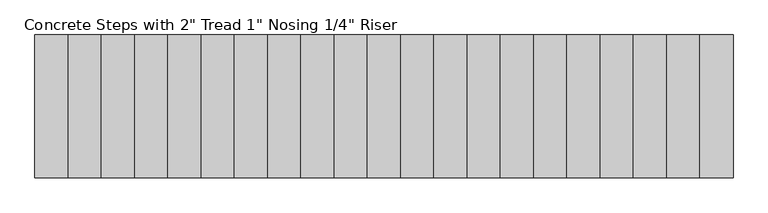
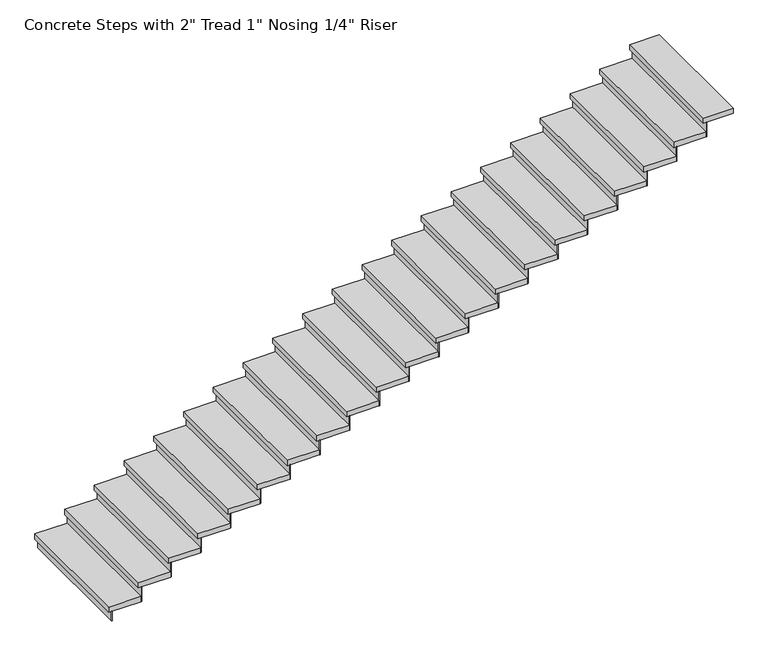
"""IFC4 building model written with IfcOpenShell, lengths in millimetres: stair flight geometry."""

from ifc_helpers import new_model, si_unit, frame, origin, origin_with_axes, place, context, project, spatial, polyline, outline, extrude, source, transform, mapped, element, save


def stair_flight_b4acfca7(model_context):
    return source(origin(), model_context, "Body", "SweptSolid", [
        extrude(outline(polyline([(-38912.5313244, -3862.1362112), (-38918.8813244, -3862.1362112), (-38918.8813244, -2662.1362112), (-38912.5313244, -2662.1362112), (-38912.5313244, -3862.1362112)])), origin_with_axes(), (0.0, 0.0, 1.0), 94.3428571),
        extrude(outline(polyline([(-38639.4813244, -2662.1362112), (-38639.4813244, -3862.1362112), (-38944.2813244, -3862.1362112), (-38944.2813244, -2662.1362112), (-38639.4813244, -2662.1362112)])), frame((0.0, 0.0, 94.3428571), z_axis=(0.0, 0.0, 1.0), x_axis=(1.0, 0.0, 0.0)), (0.0, 0.0, 1.0), 50.8),
        extrude(outline(polyline([(-38633.1313244, -3862.1362112), (-38639.4813244, -3862.1362112), (-38639.4813244, -2662.1362112), (-38633.1313244, -2662.1362112), (-38633.1313244, -3862.1362112)])), frame((0.0, 0.0, 94.3428571), z_axis=(0.0, 0.0, 1.0), x_axis=(1.0, 0.0, 0.0)), (0.0, 0.0, 1.0), 145.1428571),
        extrude(outline(polyline([(-38360.0813244, -2662.1362112), (-38360.0813244, -3862.1362112), (-38664.8813244, -3862.1362112), (-38664.8813244, -2662.1362112), (-38360.0813244, -2662.1362112)])), frame((0.0, 0.0, 239.4857143), z_axis=(0.0, 0.0, 1.0), x_axis=(1.0, 0.0, 0.0)), (0.0, 0.0, 1.0), 50.8),
        extrude(outline(polyline([(-38353.7313244, -3862.1362112), (-38360.0813244, -3862.1362112), (-38360.0813244, -2662.1362112), (-38353.7313244, -2662.1362112), (-38353.7313244, -3862.1362112)])), frame((0.0, 0.0, 239.4857143), z_axis=(0.0, 0.0, 1.0), x_axis=(1.0, 0.0, 0.0)), (0.0, 0.0, 1.0), 145.1428571),
        extrude(outline(polyline([(-38080.6813244, -2662.1362112), (-38080.6813244, -3862.1362112), (-38385.4813244, -3862.1362112), (-38385.4813244, -2662.1362112), (-38080.6813244, -2662.1362112)])), frame((0.0, 0.0, 384.6285714), z_axis=(0.0, 0.0, 1.0), x_axis=(1.0, 0.0, 0.0)), (0.0, 0.0, 1.0), 50.8),
        extrude(outline(polyline([(-38074.3313244, -3862.1362112), (-38080.6813244, -3862.1362112), (-38080.6813244, -2662.1362112), (-38074.3313244, -2662.1362112), (-38074.3313244, -3862.1362112)])), frame((0.0, 0.0, 384.6285714), z_axis=(0.0, 0.0, 1.0), x_axis=(1.0, 0.0, 0.0)), (0.0, 0.0, 1.0), 145.1428571),
        extrude(outline(polyline([(-37801.2813244, -2662.1362112), (-37801.2813244, -3862.1362112), (-38106.0813244, -3862.1362112), (-38106.0813244, -2662.1362112), (-37801.2813244, -2662.1362112)])), frame((0.0, 0.0, 529.7714286), z_axis=(0.0, 0.0, 1.0), x_axis=(1.0, 0.0, 0.0)), (0.0, 0.0, 1.0), 50.8),
        extrude(outline(polyline([(-37794.9313244, -3862.1362112), (-37801.2813244, -3862.1362112), (-37801.2813244, -2662.1362112), (-37794.9313244, -2662.1362112), (-37794.9313244, -3862.1362112)])), frame((0.0, 0.0, 529.7714286), z_axis=(0.0, 0.0, 1.0), x_axis=(1.0, 0.0, 0.0)), (0.0, 0.0, 1.0), 145.1428571),
        extrude(outline(polyline([(-37521.8813244, -2662.1362112), (-37521.8813244, -3862.1362112), (-37826.6813244, -3862.1362112), (-37826.6813244, -2662.1362112), (-37521.8813244, -2662.1362112)])), frame((0.0, 0.0, 674.9142857), z_axis=(0.0, 0.0, 1.0), x_axis=(1.0, 0.0, 0.0)), (0.0, 0.0, 1.0), 50.8),
        extrude(outline(polyline([(-37515.5313244, -3862.1362112), (-37521.8813244, -3862.1362112), (-37521.8813244, -2662.1362112), (-37515.5313244, -2662.1362112), (-37515.5313244, -3862.1362112)])), frame((0.0, 0.0, 674.9142857), z_axis=(0.0, 0.0, 1.0), x_axis=(1.0, 0.0, 0.0)), (0.0, 0.0, 1.0), 145.1428571),
        extrude(outline(polyline([(-37242.4813244, -2662.1362112), (-37242.4813244, -3862.1362112), (-37547.2813244, -3862.1362112), (-37547.2813244, -2662.1362112), (-37242.4813244, -2662.1362112)])), frame((0.0, 0.0, 820.0571429), z_axis=(0.0, 0.0, 1.0), x_axis=(1.0, 0.0, 0.0)), (0.0, 0.0, 1.0), 50.8),
        extrude(outline(polyline([(-37236.1313244, -3862.1362112), (-37242.4813244, -3862.1362112), (-37242.4813244, -2662.1362112), (-37236.1313244, -2662.1362112), (-37236.1313244, -3862.1362112)])), frame((0.0, 0.0, 820.0571429), z_axis=(0.0, 0.0, 1.0), x_axis=(1.0, 0.0, 0.0)), (0.0, 0.0, 1.0), 145.1428571),
        extrude(outline(polyline([(-36963.0813244, -2662.1362112), (-36963.0813244, -3862.1362112), (-37267.8813244, -3862.1362112), (-37267.8813244, -2662.1362112), (-36963.0813244, -2662.1362112)])), frame((0.0, 0.0, 965.2), z_axis=(0.0, 0.0, 1.0), x_axis=(1.0, 0.0, 0.0)), (0.0, 0.0, 1.0), 50.8),
        extrude(outline(polyline([(-36956.7313244, -3862.1362112), (-36963.0813244, -3862.1362112), (-36963.0813244, -2662.1362112), (-36956.7313244, -2662.1362112), (-36956.7313244, -3862.1362112)])), frame((0.0, 0.0, 965.2), z_axis=(0.0, 0.0, 1.0), x_axis=(1.0, 0.0, 0.0)), (0.0, 0.0, 1.0), 145.1428571),
        extrude(outline(polyline([(-36683.6813244, -2662.1362112), (-36683.6813244, -3862.1362112), (-36988.4813244, -3862.1362112), (-36988.4813244, -2662.1362112), (-36683.6813244, -2662.1362112)])), frame((0.0, 0.0, 1110.3428571), z_axis=(0.0, 0.0, 1.0), x_axis=(1.0, 0.0, 0.0)), (0.0, 0.0, 1.0), 50.8),
        extrude(outline(polyline([(-36677.3313244, -3862.1362112), (-36683.6813244, -3862.1362112), (-36683.6813244, -2662.1362112), (-36677.3313244, -2662.1362112), (-36677.3313244, -3862.1362112)])), frame((0.0, 0.0, 1110.3428571), z_axis=(0.0, 0.0, 1.0), x_axis=(1.0, 0.0, 0.0)), (0.0, 0.0, 1.0), 145.1428571),
        extrude(outline(polyline([(-36404.2813244, -2662.1362112), (-36404.2813244, -3862.1362112), (-36709.0813244, -3862.1362112), (-36709.0813244, -2662.1362112), (-36404.2813244, -2662.1362112)])), frame((0.0, 0.0, 1255.4857143), z_axis=(0.0, 0.0, 1.0), x_axis=(1.0, 0.0, 0.0)), (0.0, 0.0, 1.0), 50.8),
        extrude(outline(polyline([(-36397.9313244, -3862.1362112), (-36404.2813244, -3862.1362112), (-36404.2813244, -2662.1362112), (-36397.9313244, -2662.1362112), (-36397.9313244, -3862.1362112)])), frame((0.0, 0.0, 1255.4857143), z_axis=(0.0, 0.0, 1.0), x_axis=(1.0, 0.0, 0.0)), (0.0, 0.0, 1.0), 145.1428571),
        extrude(outline(polyline([(-36124.8813244, -2662.1362112), (-36124.8813244, -3862.1362112), (-36429.6813244, -3862.1362112), (-36429.6813244, -2662.1362112), (-36124.8813244, -2662.1362112)])), frame((0.0, 0.0, 1400.6285714), z_axis=(0.0, 0.0, 1.0), x_axis=(1.0, 0.0, 0.0)), (0.0, 0.0, 1.0), 50.8),
        extrude(outline(polyline([(-36118.5313244, -3862.1362112), (-36124.8813244, -3862.1362112), (-36124.8813244, -2662.1362112), (-36118.5313244, -2662.1362112), (-36118.5313244, -3862.1362112)])), frame((0.0, 0.0, 1400.6285714), z_axis=(0.0, 0.0, 1.0), x_axis=(1.0, 0.0, 0.0)), (0.0, 0.0, 1.0), 145.1428571),
        extrude(outline(polyline([(-35845.4813244, -2662.1362112), (-35845.4813244, -3862.1362112), (-36150.2813244, -3862.1362112), (-36150.2813244, -2662.1362112), (-35845.4813244, -2662.1362112)])), frame((0.0, 0.0, 1545.7714286), z_axis=(0.0, 0.0, 1.0), x_axis=(1.0, 0.0, 0.0)), (0.0, 0.0, 1.0), 50.8),
        extrude(outline(polyline([(-35839.1313244, -3862.1362112), (-35845.4813244, -3862.1362112), (-35845.4813244, -2662.1362112), (-35839.1313244, -2662.1362112), (-35839.1313244, -3862.1362112)])), frame((0.0, 0.0, 1545.7714286), z_axis=(0.0, 0.0, 1.0), x_axis=(1.0, 0.0, 0.0)), (0.0, 0.0, 1.0), 145.1428571),
        extrude(outline(polyline([(-35566.0813244, -2662.1362112), (-35566.0813244, -3862.1362112), (-35870.8813244, -3862.1362112), (-35870.8813244, -2662.1362112), (-35566.0813244, -2662.1362112)])), frame((0.0, 0.0, 1690.9142857), z_axis=(0.0, 0.0, 1.0), x_axis=(1.0, 0.0, 0.0)), (0.0, 0.0, 1.0), 50.8),
        extrude(outline(polyline([(-35559.7313244, -3862.1362112), (-35566.0813244, -3862.1362112), (-35566.0813244, -2662.1362112), (-35559.7313244, -2662.1362112), (-35559.7313244, -3862.1362112)])), frame((0.0, 0.0, 1690.9142857), z_axis=(0.0, 0.0, 1.0), x_axis=(1.0, 0.0, 0.0)), (0.0, 0.0, 1.0), 145.1428571),
        extrude(outline(polyline([(-35286.6813244, -2662.1362112), (-35286.6813244, -3862.1362112), (-35591.4813244, -3862.1362112), (-35591.4813244, -2662.1362112), (-35286.6813244, -2662.1362112)])), frame((0.0, 0.0, 1836.0571429), z_axis=(0.0, 0.0, 1.0), x_axis=(1.0, 0.0, 0.0)), (0.0, 0.0, 1.0), 50.8),
        extrude(outline(polyline([(-35280.3313244, -3862.1362112), (-35286.6813244, -3862.1362112), (-35286.6813244, -2662.1362112), (-35280.3313244, -2662.1362112), (-35280.3313244, -3862.1362112)])), frame((0.0, 0.0, 1836.0571429), z_axis=(0.0, 0.0, 1.0), x_axis=(1.0, 0.0, 0.0)), (0.0, 0.0, 1.0), 145.1428571),
        extrude(outline(polyline([(-35007.2813244, -2662.1362112), (-35007.2813244, -3862.1362112), (-35312.0813244, -3862.1362112), (-35312.0813244, -2662.1362112), (-35007.2813244, -2662.1362112)])), frame((0.0, 0.0, 1981.2), z_axis=(0.0, 0.0, 1.0), x_axis=(1.0, 0.0, 0.0)), (0.0, 0.0, 1.0), 50.8),
        extrude(outline(polyline([(-35000.9313244, -3862.1362112), (-35007.2813244, -3862.1362112), (-35007.2813244, -2662.1362112), (-35000.9313244, -2662.1362112), (-35000.9313244, -3862.1362112)])), frame((0.0, 0.0, 1981.2), z_axis=(0.0, 0.0, 1.0), x_axis=(1.0, 0.0, 0.0)), (0.0, 0.0, 1.0), 145.1428571),
        extrude(outline(polyline([(-34727.8813244, -2662.1362112), (-34727.8813244, -3862.1362112), (-35032.6813244, -3862.1362112), (-35032.6813244, -2662.1362112), (-34727.8813244, -2662.1362112)])), frame((0.0, 0.0, 2126.3428571), z_axis=(0.0, 0.0, 1.0), x_axis=(1.0, 0.0, 0.0)), (0.0, 0.0, 1.0), 50.8),
        extrude(outline(polyline([(-34721.5313244, -3862.1362112), (-34727.8813244, -3862.1362112), (-34727.8813244, -2662.1362112), (-34721.5313244, -2662.1362112), (-34721.5313244, -3862.1362112)])), frame((0.0, 0.0, 2126.3428571), z_axis=(0.0, 0.0, 1.0), x_axis=(1.0, 0.0, 0.0)), (0.0, 0.0, 1.0), 145.1428571),
        extrude(outline(polyline([(-34448.4813244, -2662.1362112), (-34448.4813244, -3862.1362112), (-34753.2813244, -3862.1362112), (-34753.2813244, -2662.1362112), (-34448.4813244, -2662.1362112)])), frame((0.0, 0.0, 2271.4857143), z_axis=(0.0, 0.0, 1.0), x_axis=(1.0, 0.0, 0.0)), (0.0, 0.0, 1.0), 50.8),
        extrude(outline(polyline([(-34442.1313244, -3862.1362112), (-34448.4813244, -3862.1362112), (-34448.4813244, -2662.1362112), (-34442.1313244, -2662.1362112), (-34442.1313244, -3862.1362112)])), frame((0.0, 0.0, 2271.4857143), z_axis=(0.0, 0.0, 1.0), x_axis=(1.0, 0.0, 0.0)), (0.0, 0.0, 1.0), 145.1428571),
        extrude(outline(polyline([(-34169.0813244, -2662.1362112), (-34169.0813244, -3862.1362112), (-34473.8813244, -3862.1362112), (-34473.8813244, -2662.1362112), (-34169.0813244, -2662.1362112)])), frame((0.0, 0.0, 2416.6285714), z_axis=(0.0, 0.0, 1.0), x_axis=(1.0, 0.0, 0.0)), (0.0, 0.0, 1.0), 50.8),
        extrude(outline(polyline([(-34162.7313244, -3862.1362112), (-34169.0813244, -3862.1362112), (-34169.0813244, -2662.1362112), (-34162.7313244, -2662.1362112), (-34162.7313244, -3862.1362112)])), frame((0.0, 0.0, 2416.6285714), z_axis=(0.0, 0.0, 1.0), x_axis=(1.0, 0.0, 0.0)), (0.0, 0.0, 1.0), 145.1428571),
        extrude(outline(polyline([(-33889.6813244, -2662.1362112), (-33889.6813244, -3862.1362112), (-34194.4813244, -3862.1362112), (-34194.4813244, -2662.1362112), (-33889.6813244, -2662.1362112)])), frame((0.0, 0.0, 2561.7714286), z_axis=(0.0, 0.0, 1.0), x_axis=(1.0, 0.0, 0.0)), (0.0, 0.0, 1.0), 50.8),
        extrude(outline(polyline([(-33883.3313244, -3862.1362112), (-33889.6813244, -3862.1362112), (-33889.6813244, -2662.1362112), (-33883.3313244, -2662.1362112), (-33883.3313244, -3862.1362112)])), frame((0.0, 0.0, 2561.7714286), z_axis=(0.0, 0.0, 1.0), x_axis=(1.0, 0.0, 0.0)), (0.0, 0.0, 1.0), 145.1428571),
        extrude(outline(polyline([(-33610.2813244, -2662.1362112), (-33610.2813244, -3862.1362112), (-33915.0813244, -3862.1362112), (-33915.0813244, -2662.1362112), (-33610.2813244, -2662.1362112)])), frame((0.0, 0.0, 2706.9142857), z_axis=(0.0, 0.0, 1.0), x_axis=(1.0, 0.0, 0.0)), (0.0, 0.0, 1.0), 50.8),
        extrude(outline(polyline([(-33603.9313244, -3862.1362112), (-33610.2813244, -3862.1362112), (-33610.2813244, -2662.1362112), (-33603.9313244, -2662.1362112), (-33603.9313244, -3862.1362112)])), frame((0.0, 0.0, 2706.9142857), z_axis=(0.0, 0.0, 1.0), x_axis=(1.0, 0.0, 0.0)), (0.0, 0.0, 1.0), 145.1428571),
        extrude(outline(polyline([(-33330.8813244, -2662.1362112), (-33330.8813244, -3862.1362112), (-33635.6813244, -3862.1362112), (-33635.6813244, -2662.1362112), (-33330.8813244, -2662.1362112)])), frame((0.0, 0.0, 2852.0571429), z_axis=(0.0, 0.0, 1.0), x_axis=(1.0, 0.0, 0.0)), (0.0, 0.0, 1.0), 50.8),
        extrude(outline(polyline([(-33324.5313244, -3862.1362112), (-33330.8813244, -3862.1362112), (-33330.8813244, -2662.1362112), (-33324.5313244, -2662.1362112), (-33324.5313244, -3862.1362112)])), frame((0.0, 0.0, 2852.0571429), z_axis=(0.0, 0.0, 1.0), x_axis=(1.0, 0.0, 0.0)), (0.0, 0.0, 1.0), 145.1428571),
        extrude(outline(polyline([(-33076.8813244, -2662.1362112), (-33076.8813244, -3862.1362112), (-33356.2813244, -3862.1362112), (-33356.2813244, -2662.1362112), (-33076.8813244, -2662.1362112)])), frame((0.0, 0.0, 2997.2), z_axis=(0.0, 0.0, 1.0), x_axis=(1.0, 0.0, 0.0)), (0.0, 0.0, 1.0), 50.8),
    ])


if __name__ == "__main__":
    model = new_model("IFC4")
    model_context = context("Model", 3, world=origin())
    ifc_project = project(units=[si_unit("LENGTHUNIT", "METRE", prefix="MILLI")], contexts=[model_context])
    site = spatial("IfcSite", under=ifc_project)
    building = spatial("IfcBuilding", under=site)
    placement = place(None, origin())
    stair_flight_shape = stair_flight_b4acfca7(model_context)
    element("IfcStairFlight", 1, ObjectType="Concrete Steps with 2\" Tread 1\" Nosing 1/4\" Riser", at=placement, inside=building, context=model_context, shape_type="MappedRepresentation", body=[
        mapped(stair_flight_shape, transform((0.0, 0.0, 0.0), x_axis=(1.0, 0.0, 0.0), y_axis=(0.0, 1.0, 0.0), z_axis=(0.0, 0.0, 1.0))),
    ])
    save(model, "model.ifc")
